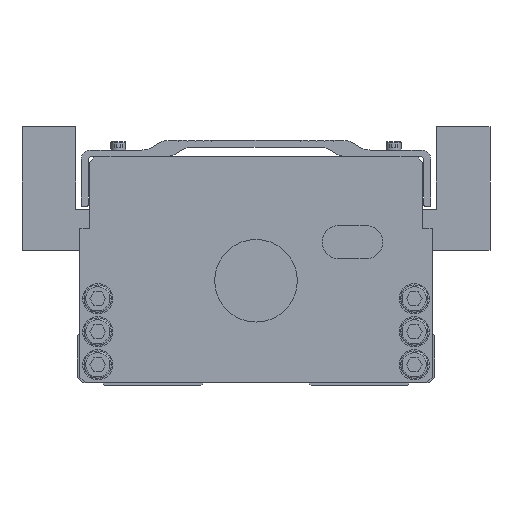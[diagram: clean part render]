
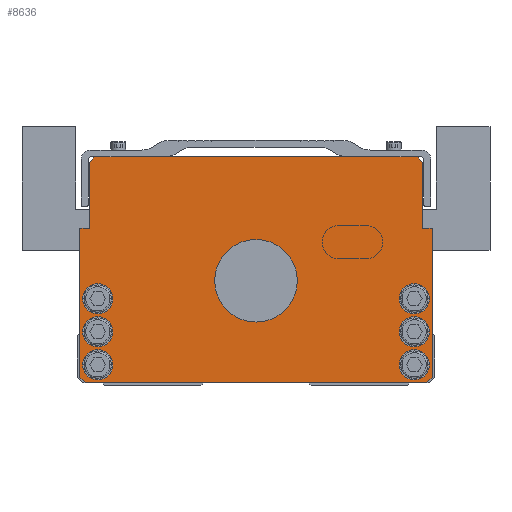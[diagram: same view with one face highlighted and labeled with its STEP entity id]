
A CAD part, front view. The second image highlights one B-rep face of the part: STEP entity #8636.
In plain terms, the highlighted planar face has unit normal (0, -1, 0).
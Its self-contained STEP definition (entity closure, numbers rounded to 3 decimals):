
#5252=VERTEX_POINT('',#15330);
#5426=VERTEX_POINT('',#15521);
#5466=EDGE_CURVE('',#8562,#13340,#15565,.T.);
#5508=VERTEX_POINT('',#15610);
#6038=VERTEX_POINT('',#16203);
#6246=EDGE_CURVE('',#7550,#11086,#16438,.T.);
#6704=VERTEX_POINT('',#16944);
#6828=EDGE_CURVE('',#7772,#12992,#17083,.T.);
#7118=EDGE_CURVE('',#6038,#8618,#17396,.T.);
#7252=EDGE_CURVE('',#13340,#7378,#17548,.T.);
#7378=VERTEX_POINT('',#17685);
#7416=EDGE_CURVE('',#8812,#11656,#17725,.T.);
#7550=VERTEX_POINT('',#17871);
#7584=EDGE_CURVE('',#11236,#12558,#17911,.T.);
#7772=VERTEX_POINT('',#18124);
#7922=EDGE_CURVE('',#9026,#11932,#18291,.T.);
#8562=VERTEX_POINT('',#19000);
#8602=EDGE_CURVE('',#5508,#6704,#19043,.T.);
#8618=VERTEX_POINT('',#19060);
#8636=ADVANCED_FACE('',(#19079,#19080,#19081,#19082,#19083,#19084,#19085,#19086),#19087,.T.);
#8716=VERTEX_POINT('',#19183);
#8812=VERTEX_POINT('',#19285);
#8984=VERTEX_POINT('',#19477);
#9010=EDGE_CURVE('',#12558,#8562,#19504,.T.);
#9014=VERTEX_POINT('',#19508);
#9026=VERTEX_POINT('',#19520);
#9198=EDGE_CURVE('',#9014,#10378,#19708,.T.);
#9348=EDGE_CURVE('',#10378,#9014,#19876,.T.);
#9636=EDGE_CURVE('',#8618,#8716,#20197,.T.);
#9790=EDGE_CURVE('',#8716,#11236,#20363,.T.);
#10378=VERTEX_POINT('',#21008);
#10728=EDGE_CURVE('',#6704,#5508,#21404,.T.);
#10898=EDGE_CURVE('',#11932,#9026,#21587,.T.);
#11080=EDGE_CURVE('',#14062,#13626,#21807,.T.);
#11086=VERTEX_POINT('',#21813);
#11236=VERTEX_POINT('',#21985);
#11648=EDGE_CURVE('',#11656,#8812,#22440,.T.);
#11656=VERTEX_POINT('',#22448);
#11932=VERTEX_POINT('',#22748);
#12028=EDGE_CURVE('',#12118,#5426,#22857,.T.);
#12032=EDGE_CURVE('',#14836,#13792,#22861,.T.);
#12118=VERTEX_POINT('',#22959);
#12538=EDGE_CURVE('',#13792,#5252,#23418,.T.);
#12558=VERTEX_POINT('',#23440);
#12672=EDGE_CURVE('',#13626,#14062,#23574,.T.);
#12876=EDGE_CURVE('',#8984,#6038,#23803,.T.);
#12992=VERTEX_POINT('',#23938);
#13014=EDGE_CURVE('',#7378,#14836,#23960,.T.);
#13340=VERTEX_POINT('',#24328);
#13572=EDGE_CURVE('',#12992,#7772,#24587,.T.);
#13626=VERTEX_POINT('',#24648);
#13792=VERTEX_POINT('',#24834);
#13904=EDGE_CURVE('',#5426,#8984,#24962,.T.);
#14062=VERTEX_POINT('',#25140);
#14144=EDGE_CURVE('',#5252,#12118,#25231,.T.);
#14620=EDGE_CURVE('',#11086,#7550,#25760,.T.);
#14836=VERTEX_POINT('',#26010);
#15330=CARTESIAN_POINT('',(-60.5,0.0,81.0));
#15521=CARTESIAN_POINT('',(-33.25,0.0,83.0));
#15565=LINE('',#26947,#26948);
#15610=CARTESIAN_POINT('',(63.0,0.0,7.5));
#16203=CARTESIAN_POINT('',(58.5,0.0,83.0));
#16438=CIRCLE('',#28163,5.5);
#16944=CARTESIAN_POINT('',(52.0,0.0,7.5));
#17083=CIRCLE('',#29044,5.5);
#17396=LINE('',#29483,#29484);
#17548=LINE('',#29685,#29686);
#17685=CARTESIAN_POINT('',(-64.0,0.0,3.0));
#17725=CIRCLE('',#29937,5.5);
#17871=CARTESIAN_POINT('',(52.0,0.0,31.5));
#17911=LINE('',#30190,#30191);
#18124=CARTESIAN_POINT('',(-63.0,0.0,7.5));
#18291=CIRCLE('',#30702,15.0);
#19000=CARTESIAN_POINT('',(62.0,0.0,1.0));
#19043=CIRCLE('',#31709,5.5);
#19060=CARTESIAN_POINT('',(60.5,0.0,81.0));
#19079=FACE_BOUND('',#31762,.T.);
#19080=FACE_BOUND('',#31763,.T.);
#19081=FACE_BOUND('',#31764,.T.);
#19082=FACE_BOUND('',#31765,.T.);
#19083=FACE_BOUND('',#31766,.T.);
#19084=FACE_BOUND('',#31767,.T.);
#19085=FACE_BOUND('',#31768,.T.);
#19086=FACE_OUTER_BOUND('',#31769,.T.);
#19087=PLANE('',#31770);
#19183=CARTESIAN_POINT('',(60.5,0.0,57.0));
#19285=CARTESIAN_POINT('',(-52.0,0.0,31.5));
#19477=CARTESIAN_POINT('',(33.25,0.0,83.0));
#19504=LINE('',#32331,#32332);
#19508=CARTESIAN_POINT('',(-63.0,0.0,19.5));
#19520=CARTESIAN_POINT('',(15.0,0.0,38.0));
#19708=CIRCLE('',#32621,5.5);
#19876=CIRCLE('',#32848,5.5);
#20197=LINE('',#33282,#33283);
#20363=LINE('',#33519,#33520);
#21008=CARTESIAN_POINT('',(-52.0,0.0,19.5));
#21404=CIRCLE('',#34931,5.5);
#21587=CIRCLE('',#35186,15.0);
#21807=CIRCLE('',#35471,5.5);
#21813=CARTESIAN_POINT('',(63.0,0.0,31.5));
#21985=CARTESIAN_POINT('',(64.0,0.0,57.0));
#22440=CIRCLE('',#36333,5.5);
#22448=CARTESIAN_POINT('',(-63.0,0.0,31.5));
#22748=CARTESIAN_POINT('',(-15.0,0.0,38.0));
#22857=LINE('',#36892,#36893);
#22861=LINE('',#36899,#36900);
#22959=CARTESIAN_POINT('',(-58.5,0.0,83.0));
#23418=LINE('',#37650,#37651);
#23440=CARTESIAN_POINT('',(64.0,0.0,3.0));
#23574=CIRCLE('',#37860,5.5);
#23803=LINE('',#38195,#38196);
#23938=CARTESIAN_POINT('',(-52.0,0.0,7.5));
#23960=LINE('',#38419,#38420);
#24328=CARTESIAN_POINT('',(-62.0,0.0,1.0));
#24587=CIRCLE('',#39267,5.5);
#24648=CARTESIAN_POINT('',(52.0,0.0,19.5));
#24834=CARTESIAN_POINT('',(-60.5,0.0,57.0));
#24962=LINE('',#39771,#39772);
#25140=CARTESIAN_POINT('',(63.0,0.0,19.5));
#25231=LINE('',#40142,#40143);
#25760=CIRCLE('',#40884,5.5);
#26010=CARTESIAN_POINT('',(-64.0,0.0,57.0));
#26947=CARTESIAN_POINT('',(-62.0,0.0,1.0));
#26948=VECTOR('',#42172,1.0);
#28163=AXIS2_PLACEMENT_3D('',#43222,#43223,#43224);
#29044=AXIS2_PLACEMENT_3D('',#43979,#43980,#43981);
#29483=CARTESIAN_POINT('',(60.5,0.0,81.0));
#29484=VECTOR('',#44272,1.);
#29685=CARTESIAN_POINT('',(-64.0,0.0,3.0));
#29686=VECTOR('',#44444,1.);
#29937=AXIS2_PLACEMENT_3D('',#44609,#44610,#44611);
#30190=CARTESIAN_POINT('',(64.0,0.0,3.0));
#30191=VECTOR('',#44835,1.0);
#30702=AXIS2_PLACEMENT_3D('',#45332,#45333,#45334);
#31709=AXIS2_PLACEMENT_3D('',#46184,#46185,#46186);
#31762=EDGE_LOOP('',(#46221,#46222));
#31763=EDGE_LOOP('',(#46223,#46224));
#31764=EDGE_LOOP('',(#46225,#46226));
#31765=EDGE_LOOP('',(#46227,#46228));
#31766=EDGE_LOOP('',(#46229,#46230));
#31767=EDGE_LOOP('',(#46231,#46232));
#31768=EDGE_LOOP('',(#46233,#46234));
#31769=EDGE_LOOP('',(#46235,#46236,#46237,#46238,#46239,#46240,#46241,#46242,#46243,#46244,#46245,#46246,#46247,#46248));
#31770=AXIS2_PLACEMENT_3D('',#46249,#46250,#46251);
#32331=CARTESIAN_POINT('',(62.0,0.0,1.0));
#32332=VECTOR('',#46745,1.);
#32621=AXIS2_PLACEMENT_3D('',#46947,#46948,#46949);
#32848=AXIS2_PLACEMENT_3D('',#47157,#47158,#47159);
#33282=CARTESIAN_POINT('',(60.5,0.0,57.0));
#33283=VECTOR('',#47522,1.0);
#33519=CARTESIAN_POINT('',(64.0,0.0,57.0));
#33520=VECTOR('',#47691,1.0);
#34931=AXIS2_PLACEMENT_3D('',#48795,#48796,#48797);
#35186=AXIS2_PLACEMENT_3D('',#48956,#48957,#48958);
#35471=AXIS2_PLACEMENT_3D('',#49251,#49252,#49253);
#36333=AXIS2_PLACEMENT_3D('',#49933,#49934,#49935);
#36892=CARTESIAN_POINT('',(58.5,0.0,83.0));
#36893=VECTOR('',#50371,1.0);
#36899=CARTESIAN_POINT('',(-60.5,0.0,57.0));
#36900=VECTOR('',#50375,1.0);
#37650=CARTESIAN_POINT('',(-60.5,0.0,81.0));
#37651=VECTOR('',#50979,1.0);
#37860=AXIS2_PLACEMENT_3D('',#51181,#51182,#51183);
#38195=CARTESIAN_POINT('',(58.5,0.0,83.0));
#38196=VECTOR('',#51555,1.0);
#38419=CARTESIAN_POINT('',(-64.0,0.0,57.0));
#38420=VECTOR('',#51796,1.0);
#39267=AXIS2_PLACEMENT_3D('',#52542,#52543,#52544);
#39771=CARTESIAN_POINT('',(58.5,0.0,83.0));
#39772=VECTOR('',#53004,1.0);
#40142=CARTESIAN_POINT('',(-58.5,0.0,83.0));
#40143=VECTOR('',#53303,1.);
#40884=AXIS2_PLACEMENT_3D('',#53918,#53919,#53920);
#42172=DIRECTION('',(-1.0,0.0,-0.0));
#43222=CARTESIAN_POINT('',(57.5,0.0,31.5));
#43223=DIRECTION('',(-0.0,1.0,0.0));
#43224=DIRECTION('',(1.0,0.0,0.0));
#43979=CARTESIAN_POINT('',(-57.5,0.0,7.5));
#43980=DIRECTION('',(-0.0,1.0,0.0));
#43981=DIRECTION('',(1.0,0.0,0.0));
#44272=DIRECTION('',(0.707,0.0,-0.707));
#44444=DIRECTION('',(-0.707,0.0,0.707));
#44609=CARTESIAN_POINT('',(-57.5,0.0,31.5));
#44610=DIRECTION('',(-0.0,1.0,0.0));
#44611=DIRECTION('',(1.0,0.0,0.0));
#44835=DIRECTION('',(-0.0,0.0,-1.0));
#45332=CARTESIAN_POINT('',(0.0,0.0,38.0));
#45333=DIRECTION('',(-0.0,1.0,0.0));
#45334=DIRECTION('',(1.0,0.0,0.0));
#46184=CARTESIAN_POINT('',(57.5,0.0,7.5));
#46185=DIRECTION('',(-0.0,1.0,0.0));
#46186=DIRECTION('',(1.0,0.0,0.0));
#46221=ORIENTED_EDGE('',*,*,#7922,.T.);
#46222=ORIENTED_EDGE('',*,*,#10898,.T.);
#46223=ORIENTED_EDGE('',*,*,#14620,.T.);
#46224=ORIENTED_EDGE('',*,*,#6246,.T.);
#46225=ORIENTED_EDGE('',*,*,#11080,.T.);
#46226=ORIENTED_EDGE('',*,*,#12672,.T.);
#46227=ORIENTED_EDGE('',*,*,#8602,.T.);
#46228=ORIENTED_EDGE('',*,*,#10728,.T.);
#46229=ORIENTED_EDGE('',*,*,#7416,.T.);
#46230=ORIENTED_EDGE('',*,*,#11648,.T.);
#46231=ORIENTED_EDGE('',*,*,#9348,.T.);
#46232=ORIENTED_EDGE('',*,*,#9198,.T.);
#46233=ORIENTED_EDGE('',*,*,#13572,.T.);
#46234=ORIENTED_EDGE('',*,*,#6828,.T.);
#46235=ORIENTED_EDGE('',*,*,#7252,.F.);
#46236=ORIENTED_EDGE('',*,*,#5466,.F.);
#46237=ORIENTED_EDGE('',*,*,#9010,.F.);
#46238=ORIENTED_EDGE('',*,*,#7584,.F.);
#46239=ORIENTED_EDGE('',*,*,#9790,.F.);
#46240=ORIENTED_EDGE('',*,*,#9636,.F.);
#46241=ORIENTED_EDGE('',*,*,#7118,.F.);
#46242=ORIENTED_EDGE('',*,*,#12876,.F.);
#46243=ORIENTED_EDGE('',*,*,#13904,.F.);
#46244=ORIENTED_EDGE('',*,*,#12028,.F.);
#46245=ORIENTED_EDGE('',*,*,#14144,.F.);
#46246=ORIENTED_EDGE('',*,*,#12538,.F.);
#46247=ORIENTED_EDGE('',*,*,#12032,.F.);
#46248=ORIENTED_EDGE('',*,*,#13014,.F.);
#46249=CARTESIAN_POINT('',(0.,0.0,41.562));
#46250=DIRECTION('',(0.0,-1.0,0.0));
#46251=DIRECTION('',(1.0,0.0,0.0));
#46745=DIRECTION('',(-0.707,0.0,-0.707));
#46947=CARTESIAN_POINT('',(-57.5,0.0,19.5));
#46948=DIRECTION('',(-0.0,1.0,0.0));
#46949=DIRECTION('',(1.0,0.0,0.0));
#47157=CARTESIAN_POINT('',(-57.5,0.0,19.5));
#47158=DIRECTION('',(-0.0,1.0,0.0));
#47159=DIRECTION('',(1.0,0.0,0.0));
#47522=DIRECTION('',(-0.0,0.0,-1.0));
#47691=DIRECTION('',(1.0,0.0,0.0));
#48795=CARTESIAN_POINT('',(57.5,0.0,7.5));
#48796=DIRECTION('',(-0.0,1.0,0.0));
#48797=DIRECTION('',(1.0,0.0,0.0));
#48956=CARTESIAN_POINT('',(0.0,0.0,38.0));
#48957=DIRECTION('',(-0.0,1.0,0.0));
#48958=DIRECTION('',(1.0,0.0,0.0));
#49251=CARTESIAN_POINT('',(57.5,0.0,19.5));
#49252=DIRECTION('',(-0.0,1.0,0.0));
#49253=DIRECTION('',(1.0,0.0,0.0));
#49933=CARTESIAN_POINT('',(-57.5,0.0,31.5));
#49934=DIRECTION('',(-0.0,1.0,0.0));
#49935=DIRECTION('',(1.0,0.0,0.0));
#50371=DIRECTION('',(1.0,0.0,0.0));
#50375=DIRECTION('',(1.0,0.0,0.0));
#50979=DIRECTION('',(0.0,0.0,1.0));
#51181=CARTESIAN_POINT('',(57.5,0.0,19.5));
#51182=DIRECTION('',(-0.0,1.0,0.0));
#51183=DIRECTION('',(1.0,0.0,0.0));
#51555=DIRECTION('',(1.0,0.0,0.0));
#51796=DIRECTION('',(0.0,0.0,1.0));
#52542=CARTESIAN_POINT('',(-57.5,0.0,7.5));
#52543=DIRECTION('',(-0.0,1.0,0.0));
#52544=DIRECTION('',(1.0,0.0,0.0));
#53004=DIRECTION('',(1.0,0.0,0.0));
#53303=DIRECTION('',(0.707,0.0,0.707));
#53918=CARTESIAN_POINT('',(57.5,0.0,31.5));
#53919=DIRECTION('',(-0.0,1.0,0.0));
#53920=DIRECTION('',(1.0,0.0,0.0));
